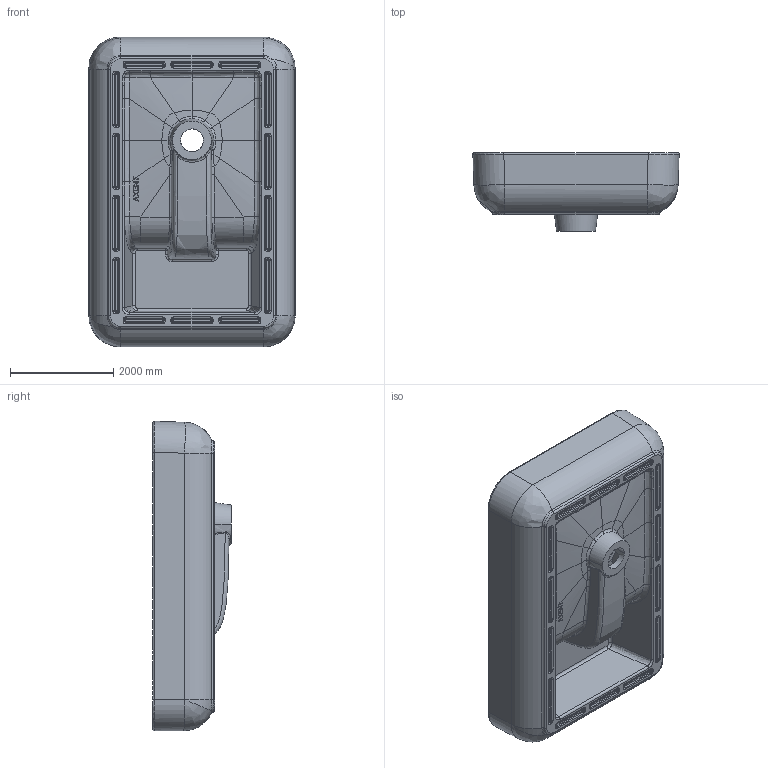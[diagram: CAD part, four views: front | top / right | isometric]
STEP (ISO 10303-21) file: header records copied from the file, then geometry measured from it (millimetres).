
FILE_DESCRIPTION(/* description */ (''),/* implementation_level */ '2;1');
FILE_NAME(/* name */ '3D_L50~3',/* time_stamp */ '2021-07-07T19:58:56+02:00',/* author */ (''),/* organization */ (''),/* preprocessor_version */ 'ST-DEVELOPER v16.5',/* originating_system */ '',/* authorisation */ '');
FILE_SCHEMA (('AUTOMOTIVE_DESIGN'));
Length unit declared in the file: centimetre
Products named in the file (1): Document
Bounding box: 3997.89 x 1525.1 x 5998.86 mm (x, y, z)
Surface area: 88264081.4 mm2 (no closed solid volume)
Topology: 0 solids, 5 shells, 560 faces, 1423 edges, 827 vertices
Faces by surface type: bspline 459, plane 101
Entity records: 36648 total; most frequent: CARTESIAN_POINT 28730, ORIENTED_EDGE 2653, EDGE_CURVE 1411, B_SPLINE_CURVE_WITH_KNOTS 919, VERTEX_POINT 827, EDGE_LOOP 584, ADVANCED_FACE 560, FACE_OUTER_BOUND 560
